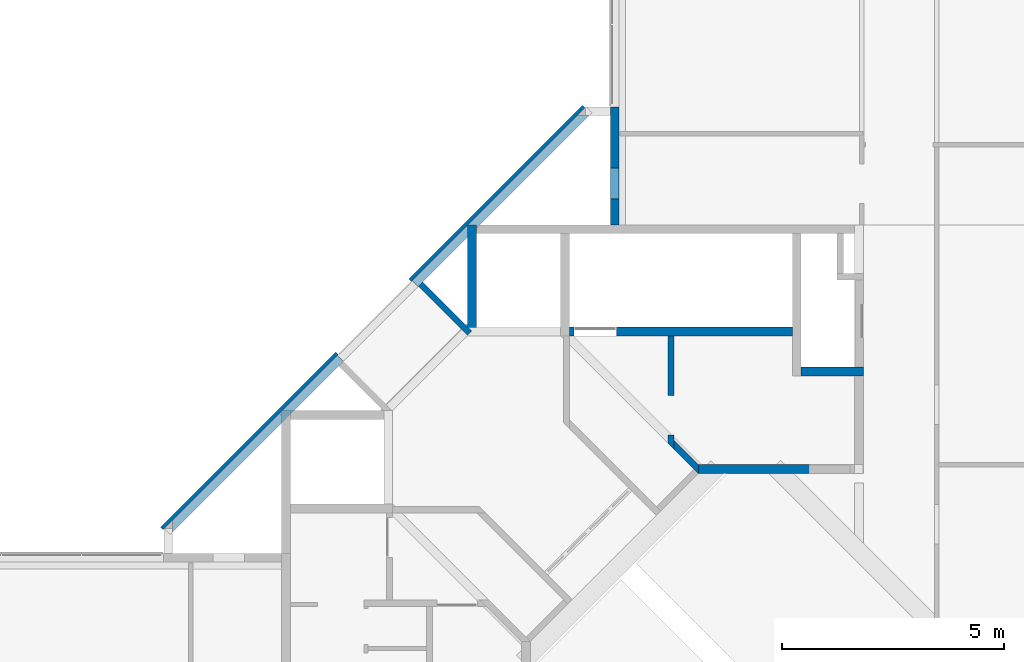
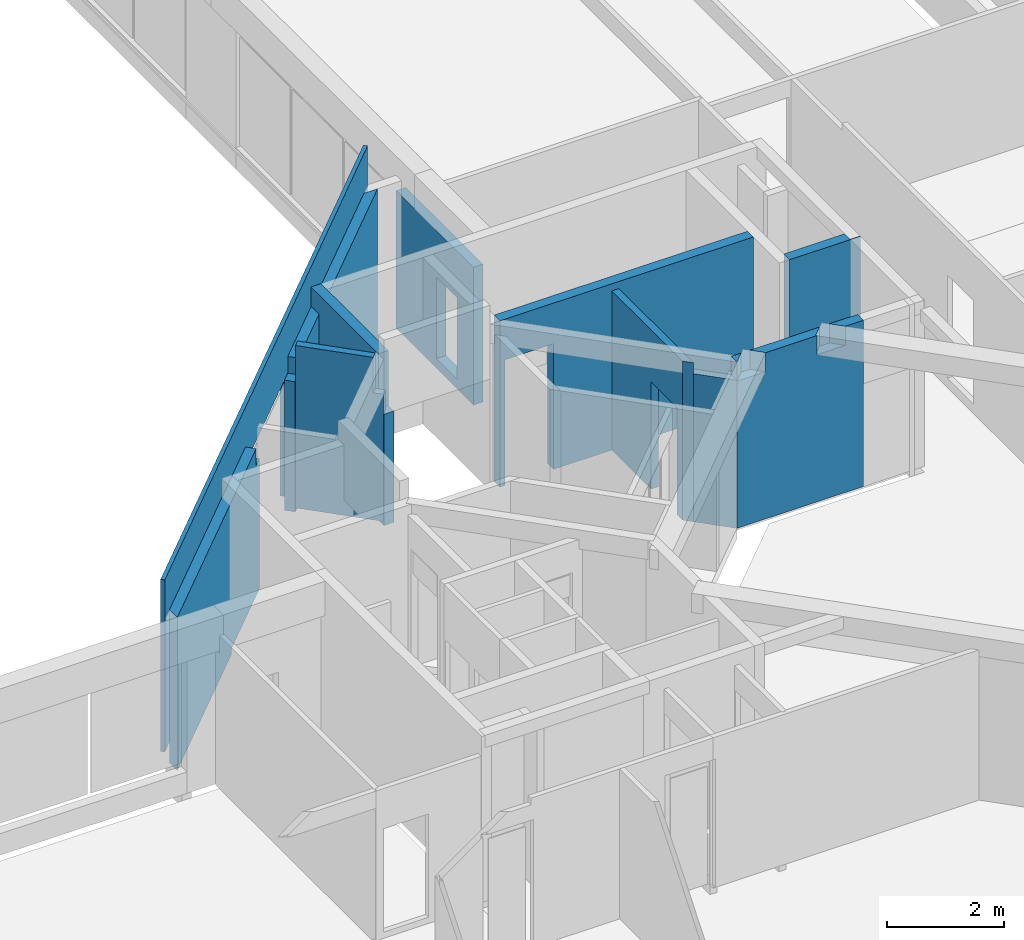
# One storey, part 23 of 38: 10 walls.
"""IFC4X3_ADD2 building model written with IfcOpenShell, lengths in millimetres."""

from ifc_helpers import new_model, si_unit, direction, frame, origin_with_axes, place, context, subcontext, project, spatial, polygons, source, transform, mapped, material, type_object, type_shapes, element, save


model = new_model("IFC4X3_ADD2")

# Units and contexts
model_context = context("Model", 3, precision=1e-05, world=origin_with_axes(), true_north=direction((0.0, 1.0)))
body_context = subcontext(model_context, "Body", "Model", "MODEL_VIEW")
ifc_project = project(units=[si_unit("LENGTHUNIT", "METRE", prefix="MILLI"), si_unit("AREAUNIT", "SQUARE_METRE"), si_unit("VOLUMEUNIT", "CUBIC_METRE"), si_unit("PLANEANGLEUNIT", "RADIAN"), si_unit("TIMEUNIT", "SECOND"), si_unit("MASSUNIT", "GRAM")], contexts=[model_context])

# Site, building, storey
site_placement = place(None, origin_with_axes())
site = spatial("IfcSite", under=ifc_project, at=site_placement, Name="Site", CompositionType="ELEMENT")
building_placement = place(site_placement, origin_with_axes())
building = spatial("IfcBuilding", under=site, at=building_placement, Name="IFC Building Story")
storey_placement = place(building_placement, frame((0.0, 0.0, 10800.0), z_axis=(0.0, 0.0, 1.0), x_axis=(1.0, 0.0, 0.0)))
storey = spatial("IfcBuildingStorey", under=building, at=storey_placement, Name="030", Elevation=10800.0)

# Walls
ifc_material = material(Name="BB_Metselwerk_Betonsteen")
wall_type_1 = type_object("IfcWallType", Name="Basic Wall_BB_03.09.24#03_Wand uit metselwerk_ 190 mm7", PredefinedType="NOTDEFINED")
shared_shape_1 = source(origin_with_axes(), body_context, "Body", "Tessellation", [
    polygons([(0.0, -95.0, 0.0), (3396.55443393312, -94.9999999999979, 0.0), (3583.4826393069, -95.0, 0.0), (3583.4826393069, -95.0, 119.999999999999), (5435.9922932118, -94.9999999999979, 119.999999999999), (5435.9922932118, -94.9999999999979, 200.000000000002), (5443.4922932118, -95.0, 200.000000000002), (5443.4922932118, -95.0, 450.000000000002), (5443.4922932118, -94.9999999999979, 2850.0), (5228.56512321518, -95.0, 2850.0), (5228.56512321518, -95.0, 3200.0), (3704.49547720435, -95.0, 3200.0), (0.0, -95.0, 3200.0), (190.0, 95.0000000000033, 0.0), (3393.4826393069, 95.0000000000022, 0.0), (3396.55443393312, 91.928205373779, 0.0), (5228.56512321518, 95.0000000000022, 3200.0), (3704.49547720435, 95.0000000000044, 3200.0), (190.0, 95.0000000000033, 3200.0), (5443.4922932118, 95.0, 2850.0), (5228.56512321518, 95.0000000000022, 2850.0), (3396.55443393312, 91.928205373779, 119.999999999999), (3393.4826393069, 95.0000000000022, 119.999999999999), (3396.55443393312, 95.0, 119.999999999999), (5435.9922932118, 95.0000000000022, 119.999999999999), (5435.9922932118, 95.0000000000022, 200.000000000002), (5443.4922932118, 95.0, 200.000000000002), (5443.4922932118, 95.0000000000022, 450.000000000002)], [[[10, 11, 12]], [[10, 12, 8]], [[8, 9, 10]], [[12, 6, 8]], [[6, 7, 8]], [[12, 4, 5]], [[12, 5, 6]], [[12, 2, 4]], [[2, 3, 4]], [[12, 13, 1]], [[12, 1, 2]], [[2, 1, 14]], [[2, 14, 15]], [[2, 15, 16]], [[16, 3, 2]], [[12, 11, 17]], [[12, 17, 18]], [[18, 19, 13]], [[18, 13, 12]], [[10, 9, 20, 21]], [[11, 10, 21, 17]], [[22, 23, 24]], [[24, 25, 5]], [[24, 5, 4]], [[24, 4, 22]], [[1, 13, 19, 14]], [[16, 15, 23]], [[16, 23, 22]], [[22, 4, 3]], [[22, 3, 16]], [[6, 5, 25, 26]], [[27, 7, 6, 26]], [[28, 20, 9]], [[28, 9, 8]], [[8, 7, 27]], [[8, 27, 28]], [[26, 25, 21]], [[28, 27, 26]], [[26, 21, 28]], [[21, 20, 28]], [[21, 25, 24]], [[21, 24, 18]], [[18, 17, 21]], [[23, 15, 14]], [[14, 19, 18]], [[14, 18, 23]], [[18, 24, 23]]]),
    polygons([(13080.8455415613, 95.0, 3200.00000000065), (13080.8455415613, 95.0, 0.0), (9780.10162734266, 95.0000000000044, 0.0), (9594.8091103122, 95.0000000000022, 0.0), (9594.8091103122, 95.0000000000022, 119.999999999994), (7820.46115961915, 95.0000000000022, 119.999999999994), (7820.46115961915, 95.0000000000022, 200.000000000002), (7812.96115961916, 95.0, 200.000000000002), (7812.96115961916, 95.0000000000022, 450.000000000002), (7812.96115961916, 95.0, 2850.0), (8029.17951373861, 95.0, 2850.0), (8029.17951373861, 95.0, 3200.00000000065), (9590.46146467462, 95.0000000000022, 3200.00000000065), (13270.8455415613, -94.9999999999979, 0.0), (9784.80911031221, -95.0, 0.0), (9780.10162734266, -90.2925170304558, 0.0), (8029.17951373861, -95.0, 3200.00000000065), (9590.46146467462, -95.0, 3200.00000000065), (13270.8455415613, -94.9999999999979, 3200.00000000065), (8029.17951373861, -95.0, 2850.0), (7812.96115961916, -95.0, 2850.0), (9784.80911031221, -95.0, 119.999999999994), (9780.10162734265, -94.9999999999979, 119.999999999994), (7820.46115961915, -95.0, 119.999999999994), (9780.10162734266, -90.2925170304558, 119.999999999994), (7820.46115961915, -95.0, 200.000000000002), (7812.96115961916, -95.0, 200.000000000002), (7812.96115961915, -95.0, 450.000000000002)], [[[11, 12, 13]], [[11, 13, 9]], [[9, 10, 11]], [[13, 7, 9]], [[7, 8, 9]], [[13, 5, 6]], [[13, 6, 7]], [[13, 3, 5]], [[3, 4, 5]], [[13, 1, 2]], [[13, 2, 3]], [[16, 4, 3]], [[3, 2, 14]], [[3, 14, 15]], [[3, 15, 16]], [[18, 19, 1]], [[18, 1, 13]], [[13, 12, 17]], [[13, 17, 18]], [[20, 17, 12, 11]], [[21, 20, 11, 10]], [[23, 24, 6]], [[23, 6, 5]], [[23, 5, 25]], [[25, 22, 23]], [[24, 26, 7, 6]], [[27, 8, 7, 26]], [[9, 8, 27]], [[9, 27, 28]], [[28, 21, 10]], [[28, 10, 9]], [[19, 14, 2, 1]], [[25, 5, 4]], [[25, 4, 16]], [[16, 15, 22]], [[16, 22, 25]], [[26, 24, 20]], [[28, 27, 26]], [[26, 20, 28]], [[20, 21, 28]], [[20, 24, 23]], [[20, 23, 18]], [[18, 17, 20]], [[22, 15, 14]], [[14, 19, 18]], [[14, 18, 22]], [[18, 23, 22]]]),
])
type_shapes(wall_type_1, [shared_shape_1])
wall_1_placement = place(storey_placement, frame((-22622.0277793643, 13248.2702696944, -200.0), z_axis=(0.0, 0.0, 1.0), x_axis=(0.7071067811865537, 0.7071067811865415, 0.0)))
element("IfcWall", 1, at=wall_1_placement, inside=storey, type_object=wall_type_1, material=ifc_material, Name="Basic Wall:BB_03.09.24#03_Wand uit metselwerk, 190 mm", ObjectType="Basic Wall:BB_03.09.24#03_Wand uit metselwerk, 190 mm", PredefinedType="SOLIDWALL", context=body_context, shape_type="MappedRepresentation", body=[
    mapped(shared_shape_1, transform((0.0, 0.0, 0.0))),
])
wall_type_2 = type_object("IfcWallType", Name="Basic Wall_BB_10.01_Akoestische voorzetwand atrium_ 75 mm9", PredefinedType="NOTDEFINED")
shared_shape_2 = source(origin_with_axes(), body_context, "Body", "Tessellation", [
    polygons([(2.16573425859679e-12, 37.4999999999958, 0.0), (5531.91474015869, 37.499999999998, 0.0), (5531.91474015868, -12.4999999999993, 0.0), (0.0, -12.4999999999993, 0.0), (13439.1778161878, 37.4999999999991, 0.0), (13439.1778161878, 37.4999999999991, 3600.0), (13439.1778161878, -12.4999999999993, 3600.0), (13439.1778161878, -12.5000000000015, 0.0), (2.16573425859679e-12, 37.4999999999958, 3600.0), (0.0, -12.4999999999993, 3600.0), (5531.91474015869, 37.499999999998, 2417.50000000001), (5531.91474015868, -12.4999999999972, 2417.50000000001), (7856.91147846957, 37.4999999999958, 2417.50000000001), (7856.91147846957, -12.5000000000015, 2417.50000000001), (7856.91147846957, 37.4999999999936, 0.0), (7856.91147846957, -12.5000000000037, 0.0)], [[[1, 2, 3, 4]], [[5, 6, 7, 8]], [[6, 9, 10, 7]], [[9, 1, 4, 10]], [[2, 11, 12, 3]], [[11, 13, 14, 12]], [[13, 15, 16, 14]], [[15, 5, 8, 16]], [[14, 16, 8]], [[14, 8, 7]], [[7, 10, 12]], [[7, 12, 14]], [[10, 4, 3]], [[10, 3, 12]], [[11, 2, 1]], [[11, 1, 9]], [[9, 6, 13]], [[9, 13, 11]], [[6, 5, 15]], [[6, 15, 13]]]),
    polygons([(0.0, -25.000000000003, 0.0), (0.0, -12.4999999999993, 0.0), (5531.91474015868, -12.4999999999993, 0.0), (5531.91474015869, -25.0, 0.0), (13439.1778161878, -25.000000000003, 0.0), (13439.1778161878, -12.4999999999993, 0.0), (13439.1778161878, -12.4999999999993, 3600.0), (13439.1778161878, -25.0000000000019, 3600.0), (-2.16573425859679e-12, -12.4999999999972, 3600.0), (0.0, -25.000000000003, 3600.0), (5531.91474015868, -12.4999999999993, 2417.50000000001), (5531.91474015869, -24.9999999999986, 2417.50000000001), (7856.91147846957, -12.5000000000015, 2417.50000000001), (7856.91147846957, -25.000000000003, 2417.50000000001), (7856.91147846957, -12.5000000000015, 0.0), (7856.91147846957, -25.0, 0.0)], [[[1, 2, 3, 4]], [[5, 6, 7, 8]], [[8, 7, 9, 10]], [[2, 1, 10, 9]], [[4, 3, 11, 12]], [[12, 11, 13, 14]], [[14, 13, 15, 16]], [[6, 5, 16, 15]], [[14, 16, 5]], [[14, 5, 8]], [[8, 10, 12]], [[8, 12, 14]], [[10, 1, 4]], [[10, 4, 12]], [[11, 3, 2]], [[11, 2, 9]], [[9, 7, 13]], [[9, 13, 11]], [[7, 6, 15]], [[7, 15, 13]]]),
    polygons([(5531.91474015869, -25.0, 0.0), (0.0, -25.000000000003, 0.0), (0.0, -25.000000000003, 3600.0), (13439.1778161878, -25.0000000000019, 3600.0), (13439.1778161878, -25.0000000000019, 0.0), (7856.91147846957, -25.0, 0.0), (7856.91147846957, -25.000000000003, 2417.50000000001), (5531.91474015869, -24.9999999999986, 2417.50000000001), (0.0, -37.5000000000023, 0.0), (5531.91474015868, -37.5000000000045, 0.0), (5531.91474015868, -37.5000000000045, 2417.50000000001), (7856.91147846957, -37.5000000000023, 2417.50000000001), (7856.91147846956, -37.5000000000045, 0.0), (13439.1778161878, -37.5000000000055, 0.0), (13439.1778161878, -37.5000000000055, 3600.0), (0.0, -37.5000000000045, 3600.0)], [[[8, 1, 2]], [[8, 2, 3]], [[3, 4, 7]], [[3, 7, 8]], [[4, 5, 6]], [[4, 6, 7]], [[12, 13, 14]], [[12, 14, 15]], [[15, 16, 11]], [[15, 11, 12]], [[16, 9, 10]], [[16, 10, 11]], [[10, 9, 2, 1]], [[15, 14, 5, 4]], [[16, 15, 4, 3]], [[9, 16, 3, 2]], [[11, 10, 1, 8]], [[12, 11, 8, 7]], [[13, 12, 7, 6]], [[14, 13, 6, 5]]]),
])
type_shapes(wall_type_2, [shared_shape_2])
wall_2_placement = place(storey_placement, frame((-13295.1813460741, 22762.4999999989, 230.0), z_axis=(0.0, 0.0, 1.0), x_axis=(-0.7071067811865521, -0.707106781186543, 0.0)))
element("IfcWall", 2, at=wall_2_placement, inside=storey, type_object=wall_type_2, Name="Basic Wall:BB_10.01_Akoestische voorzetwand atrium, 75 mm", ObjectType="Basic Wall:BB_10.01_Akoestische voorzetwand atrium, 75 mm", PredefinedType="PARTITIONING", context=body_context, shape_type="MappedRepresentation", body=[
    mapped(shared_shape_2, transform((0.0, 0.0, 0.0))),
])
wall_3_placement = place(storey_placement, frame((0.0, 0.0, -10800.0), z_axis=(0.0, 0.0, 1.0), x_axis=(1.0, 0.0, 0.0)))
element("IfcWall", 3, at=wall_3_placement, inside=storey, Name="Basic Wall:BB_XX_Wand uit beton, 200 mm", ObjectType="Basic Wall:BB_XX_Wand uit beton, 200 mm", PredefinedType="SOLIDWALL", context=body_context, shape_type="Tessellation", body=[
    polygons([(-15715.0, 17600.0, 10720.0), (-15715.0, 19899.99999999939, 10720.0), (-15715.0, 20099.99999999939, 10720.0), (-15715.0, 20099.99999999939, 14200.0), (-15715.0, 19899.99999999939, 14200.0), (-15715.0, 17790.00000000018, 14200.0), (-15715.0, 17790.00000000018, 13050.0), (-15715.0, 17600.0, 13050.0), (-15915.0, 20099.99999999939, 10720.0), (-15915.0, 17600.0, 10720.0), (-15915.0, 17600.0, 13050.0), (-15914.99999999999, 17790.0000000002, 13050.0), (-15915.0, 17790.0000000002, 14200.0), (-15915.0, 17868.70057685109, 14200.0), (-15915.0, 20099.99999999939, 14200.0)], [[[2, 3, 4]], [[2, 4, 5]], [[7, 8, 1]], [[7, 1, 2]], [[7, 2, 5]], [[5, 6, 7]], [[14, 15, 12]], [[12, 13, 14]], [[15, 9, 10]], [[15, 10, 12]], [[10, 11, 12]], [[2, 1, 10]], [[2, 10, 9]], [[9, 3, 2]], [[14, 13, 6]], [[5, 4, 15]], [[15, 14, 6]], [[15, 6, 5]], [[10, 1, 8, 11]], [[3, 9, 15, 4]], [[12, 7, 6, 13]], [[7, 12, 11, 8]]]),
])
wall_4_placement = place(storey_placement, frame((0.0, 0.0, -10800.0), z_axis=(0.0, 0.0, 1.0), x_axis=(1.0, 0.0, 0.0)))
element("IfcWall", 4, at=wall_4_placement, inside=storey, Name="Basic Wall:BB_XX_Wand uit beton, 200 mm", ObjectType="Basic Wall:BB_XX_Wand uit beton, 200 mm", PredefinedType="SOLIDWALL", context=body_context, shape_type="Tessellation", body=[
    polygons([(-8400.0, 16700.0, 10720.0), (-7200.00000000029, 16700.0, 10720.0), (-7000.00000000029, 16700.0, 10720.0), (-7000.00000000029, 16700.0, 14200.0), (-7200.00000000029, 16700.0, 14200.0), (-8400.0, 16700.0, 14200.0), (-7000.00000000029, 16900.0, 10720.0), (-8400.0, 16900.0, 10720.0), (-8400.0, 16900.0, 14200.0), (-7200.00000000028, 16900.0, 14200.0), (-7200.00000000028, 16900.0, 13940.0), (-7000.00000000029, 16900.0, 13940.0), (-7000.00000000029, 16714.36228131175, 14200.0), (-7200.00000000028, 16714.36228131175, 14200.0), (-7000.00000000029, 16714.36228131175, 13940.0), (-7200.00000000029, 16714.36228131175, 13940.0)], [[[2, 3, 4]], [[2, 4, 5]], [[5, 6, 1]], [[5, 1, 2]], [[11, 12, 7]], [[7, 8, 9]], [[7, 9, 11]], [[9, 10, 11]], [[2, 1, 8]], [[2, 8, 7]], [[7, 3, 2]], [[5, 4, 13]], [[5, 13, 14]], [[14, 10, 9]], [[14, 9, 6]], [[6, 5, 14]], [[1, 6, 9, 8]], [[15, 13, 4]], [[15, 4, 3]], [[3, 7, 12]], [[3, 12, 15]], [[16, 14, 13, 15]], [[16, 15, 12, 11]], [[14, 16, 11, 10]]]),
])
wall_5_placement = place(storey_placement, frame((0.0, 0.0, -10800.0), z_axis=(0.0, 0.0, 1.0), x_axis=(1.0, 0.0, 0.0)))
element("IfcWall", 5, at=wall_5_placement, inside=storey, Name="Basic Wall:BB_XX_Wand uit beton, 200 mm", ObjectType="Basic Wall:BB_XX_Wand uit beton, 200 mm", PredefinedType="SOLIDWALL", context=body_context, shape_type="Tessellation", body=[
    polygons([(-8600.000000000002, 17800.0, 10720.0), (-12554.99999999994, 17800.0, 10720.0), (-12554.99999999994, 17800.0, 13350.0), (-13514.99999999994, 17800.0, 13350.0), (-13514.99999999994, 17800.0, 10720.0), (-13614.99999999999, 17800.0, 10720.0), (-13614.99999999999, 17800.0, 14200.0), (-8600.000000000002, 17800.0, 14200.0), (-8600.000000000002, 17600.0, 10720.0), (-8600.000000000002, 17600.0, 14200.0), (-13546.29942314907, 17600.0, 14200.0), (-13614.99999999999, 17600.0, 14200.0), (-13614.99999999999, 17600.0, 10720.0), (-13514.99999999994, 17600.0, 10720.0), (-13514.99999999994, 17600.0, 13350.0), (-12554.99999999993, 17600.0, 13350.0), (-12554.99999999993, 17600.0, 10720.0)], [[[4, 5, 6]], [[4, 6, 7]], [[7, 3, 4]], [[3, 7, 8]], [[8, 1, 2]], [[8, 2, 3]], [[11, 12, 13]], [[11, 13, 14]], [[16, 17, 9]], [[16, 9, 10]], [[10, 11, 16]], [[11, 15, 16]], [[11, 14, 15]], [[1, 8, 10, 9]], [[7, 6, 13, 12]], [[2, 1, 9, 17]], [[11, 10, 8]], [[11, 8, 7]], [[7, 12, 11]], [[3, 2, 17, 16]], [[4, 3, 16, 15]], [[5, 4, 15, 14]], [[6, 5, 14, 13]]]),
])
wall_6_placement = place(storey_placement, frame((0.0, 0.0, -10800.0), z_axis=(0.0, 0.0, 1.0), x_axis=(1.0, 0.0, 0.0)))
element("IfcWall", 6, at=wall_6_placement, inside=storey, Name="Basic Wall:BB_XX_Wand uit beton, 200 mm", ObjectType="Basic Wall:BB_XX_Wand uit beton, 200 mm", PredefinedType="SOLIDWALL", context=body_context, shape_type="Tessellation", body=[
    polygons([(-10716.00505063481, 14700.0, 10720.0), (-10716.00505063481, 14700.0, 14200.0), (-10514.99999999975, 14700.0, 14200.0), (-10514.99999999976, 14700.0, 13800.0), (-10342.0084341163, 14700.0, 13800.0), (-10342.0084341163, 14700.0, 14200.0), (-8964.314780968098, 14700.0, 14200.0), (-8964.314780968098, 14700.0, 13800.0), (-8767.695526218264, 14700.0, 13800.0), (-8767.695526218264, 14700.0, 14200.0), (-8210.0, 14700.0, 14200.0), (-8210.0, 14700.0, 10720.0), (-10716.00505063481, 14500.0, 14200.0), (-10716.00505063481, 14500.0, 10720.0), (-8210.000000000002, 14500.0, 10720.0), (-8210.000000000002, 14500.0, 14200.0), (-8567.695526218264, 14500.0, 14200.0), (-8567.695526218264, 14500.0, 13800.0), (-9133.3809511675, 14500.0, 13800.0), (-9133.3809511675, 14500.0, 14200.0), (-10149.31457505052, 14500.0, 14200.0), (-10149.31457505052, 14500.0, 13800.0), (-10714.99999999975, 14500.0, 13800.0), (-10714.99999999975, 14500.0, 14200.0), (-9148.847866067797, 14515.4669149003, 14200.0), (-9148.8478660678, 14515.4669149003, 13800.0), (-10145.66150458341, 14503.65307046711, 13800.0), (-10145.66150458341, 14503.65307046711, 14200.0), (-10716.00505063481, 14697.98989873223, 10720.0)], [[[5, 6, 7]], [[5, 7, 8]], [[9, 10, 11]], [[9, 11, 12]], [[12, 8, 9]], [[12, 1, 5]], [[12, 5, 8]], [[1, 4, 5]], [[1, 2, 4]], [[2, 3, 4]], [[19, 20, 21]], [[19, 21, 22]], [[23, 24, 13]], [[23, 13, 14]], [[14, 22, 23]], [[19, 22, 14]], [[19, 14, 15]], [[15, 18, 19]], [[15, 16, 18]], [[16, 17, 18]], [[25, 26, 8, 7]], [[9, 18, 17, 10]], [[8, 26, 19]], [[8, 19, 18]], [[8, 18, 9]], [[26, 25, 20, 19]], [[27, 28, 6, 5]], [[27, 5, 4]], [[27, 4, 23]], [[27, 23, 22]], [[23, 4, 3, 24]], [[29, 14, 13]], [[29, 13, 2]], [[2, 1, 29]], [[28, 21, 25]], [[25, 7, 6]], [[25, 6, 28]], [[21, 20, 25]], [[12, 11, 16, 15]], [[29, 1, 12]], [[12, 15, 14]], [[12, 14, 29]], [[28, 27, 22, 21]], [[11, 10, 17, 16]], [[2, 13, 24, 3]]]),
])
wall_7_placement = place(storey_placement, frame((0.0, 0.0, -10800.0), z_axis=(0.0, 0.0, 1.0), x_axis=(1.0, 0.0, 0.0)))
element("IfcWall", 7, at=wall_7_placement, inside=storey, Name="Basic Wall:BB_XX_Wand uit metselwerk, 140 mm", ObjectType="Basic Wall:BB_XX_Wand uit metselwerk, 140 mm", PredefinedType="SOLIDWALL", context=body_context, shape_type="Tessellation", body=[
    polygons([(-11259.99999999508, 15241.984848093, 10720.0), (-11259.99999999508, 15241.984848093, 13820.0), (-10716.00505063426, 14697.98989873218, 13820.0), (-10716.00505063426, 14697.98989873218, 10720.0), (-11259.99999999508, 15043.99494936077, 10720.0), (-10716.00505063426, 14499.99999999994, 10720.0), (-10716.00505063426, 14499.99999999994, 13820.0), (-11259.99999999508, 15043.99494936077, 13820.0)], [[[1, 2, 3, 4]], [[5, 6, 7, 8]], [[6, 5, 1, 4]], [[8, 7, 3, 2]], [[1, 5, 8, 2]], [[4, 3, 7, 6]]]),
])
wall_8_placement = place(storey_placement, frame((0.0, 0.0, -10800.0), z_axis=(0.0, 0.0, 1.0), x_axis=(1.0, 0.0, 0.0)))
element("IfcWall", 8, at=wall_8_placement, inside=storey, Name="Basic Wall:BB_XX_Wand uit beton, 190 mm", ObjectType="Basic Wall:BB_XX_Wand uit beton, 190 mm", PredefinedType="SOLIDWALL", context=body_context, shape_type="Tessellation", body=[
    polygons([(-12505.0040658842, 20100.0, 10600.0), (-12505.0040658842, 22755.0000000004, 10600.0), (-12505.0040658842, 22755.0000000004, 13480.0), (-12505.0040658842, 20100.0, 13480.0), (-12505.0040658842, 21375.63375030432, 12500.0), (-12505.0040658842, 21375.63375030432, 10800.0), (-12505.0040658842, 20675.63375030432, 10800.0), (-12505.0040658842, 20675.63375030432, 12500.0), (-12695.0040658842, 20100.0, 10600.0), (-12695.0040658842, 20100.0, 13480.0), (-12695.0040658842, 22755.0000000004, 13480.0), (-12695.0040658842, 22755.0000000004, 10600.0), (-12695.0040658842, 21375.63375030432, 12500.0), (-12695.0040658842, 20675.63375030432, 12500.0), (-12695.0040658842, 20675.63375030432, 10800.0), (-12695.0040658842, 21375.63375030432, 10800.0)], [[[8, 5, 4]], [[4, 1, 7]], [[4, 7, 8]], [[1, 6, 7]], [[6, 1, 2]], [[2, 3, 5]], [[2, 5, 6]], [[3, 4, 5]], [[13, 10, 11]], [[11, 12, 16]], [[11, 16, 13]], [[12, 9, 16]], [[9, 15, 16]], [[9, 10, 14]], [[9, 14, 15]], [[10, 13, 14]], [[2, 1, 9, 12]], [[3, 2, 12, 11]], [[4, 3, 11, 10]], [[1, 4, 10, 9]], [[6, 5, 13, 16]], [[7, 6, 16, 15]], [[8, 7, 15, 14]], [[5, 8, 14, 13]]]),
])
wall_9_placement = place(storey_placement, frame((0.0, 0.0, -10800.0), z_axis=(0.0, 0.0, 1.0), x_axis=(1.0, 0.0, 0.0)))
element("IfcWall", 9, at=wall_9_placement, inside=storey, Name="Basic Wall:BB_XX_Wand uit metselwerk, 140 mm", ObjectType="Basic Wall:BB_XX_Wand uit metselwerk, 140 mm", PredefinedType="SOLIDWALL", context=body_context, shape_type="Tessellation", body=[
    polygons([(-11260.0, 15043.9949493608, 10720.0), (-11260.0, 15241.98484809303, 10720.0), (-11260.0, 15361.98484809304, 10720.0), (-11260.0, 15361.98484809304, 12960.0), (-11260.0, 16251.98484809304, 12960.0), (-11260.0, 16251.98484809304, 10720.0), (-11260.0, 17599.99999999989, 10720.0), (-11260.0, 17599.99999999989, 14050.0), (-11260.0, 15043.9949493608, 14050.0), (-11260.0, 15043.9949493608, 13820.0), (-11400.0, 15183.9949493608, 10720.0), (-11400.0, 15183.9949493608, 14050.0), (-11400.0, 17599.99999999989, 14050.0), (-11400.0, 17599.99999999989, 10720.0), (-11400.0, 16251.98484809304, 10720.0), (-11400.0, 16251.98484809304, 12960.0), (-11400.0, 15361.98484809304, 12960.0), (-11400.0, 15361.98484809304, 10720.0)], [[[5, 6, 7]], [[5, 7, 8]], [[8, 9, 5]], [[9, 4, 5]], [[9, 2, 3]], [[9, 3, 4]], [[10, 1, 2]], [[2, 9, 10]], [[17, 18, 11]], [[17, 11, 12]], [[12, 16, 17]], [[16, 12, 13]], [[13, 14, 15]], [[13, 15, 16]], [[10, 9, 12]], [[12, 11, 1]], [[12, 1, 10]], [[2, 1, 11]], [[11, 18, 3]], [[11, 3, 2]], [[8, 7, 14, 13]], [[9, 8, 13, 12]], [[4, 3, 18, 17]], [[5, 4, 17, 16]], [[6, 5, 16, 15]], [[7, 6, 15, 14]]]),
])
wall_10_placement = place(storey_placement, frame((0.0, 0.0, -10800.0), z_axis=(0.0, 0.0, 1.0), x_axis=(1.0, 0.0, 0.0)))
element("IfcWall", 10, at=wall_10_placement, inside=storey, Name="Basic Wall:BB_03.09.24#02_Wand uit metselwerk_EI60_43dB, 140 mm", ObjectType="Basic Wall:BB_03.09.24#02_Wand uit metselwerk_EI60_43dB, 140 mm", PredefinedType="SOLIDWALL", context=body_context, shape_type="Tessellation", body=[
    polygons([(-15816.00505063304, 17710.64627735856, 10800.0), (-16920.46543486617, 18815.1066615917, 10800.0), (-16920.46543486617, 18815.1066615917, 14200.0), (-15944.52967506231, 17839.17090178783, 14200.0), (-15944.52967506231, 17839.17090178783, 13460.0), (-15816.00505063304, 17710.64627735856, 13460.0), (-17019.46038423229, 18716.11171222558, 10800.0), (-15914.99999999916, 17611.65132799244, 10800.0), (-15914.99999999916, 17611.65132799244, 13460.0), (-16043.52462442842, 17740.17595242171, 13460.0), (-16043.52462442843, 17740.17595242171, 14200.0), (-17019.46038423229, 18716.11171222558, 14200.0)], [[[5, 6, 1]], [[5, 1, 2]], [[5, 2, 3]], [[3, 4, 5]], [[10, 11, 12]], [[12, 7, 8]], [[12, 8, 10]], [[8, 9, 10]], [[2, 1, 8, 7]], [[3, 2, 7, 12]], [[3, 12, 11, 4]], [[8, 1, 6, 9]], [[5, 10, 9, 6]], [[10, 5, 4, 11]]]),
])

save(model, "model.ifc")
